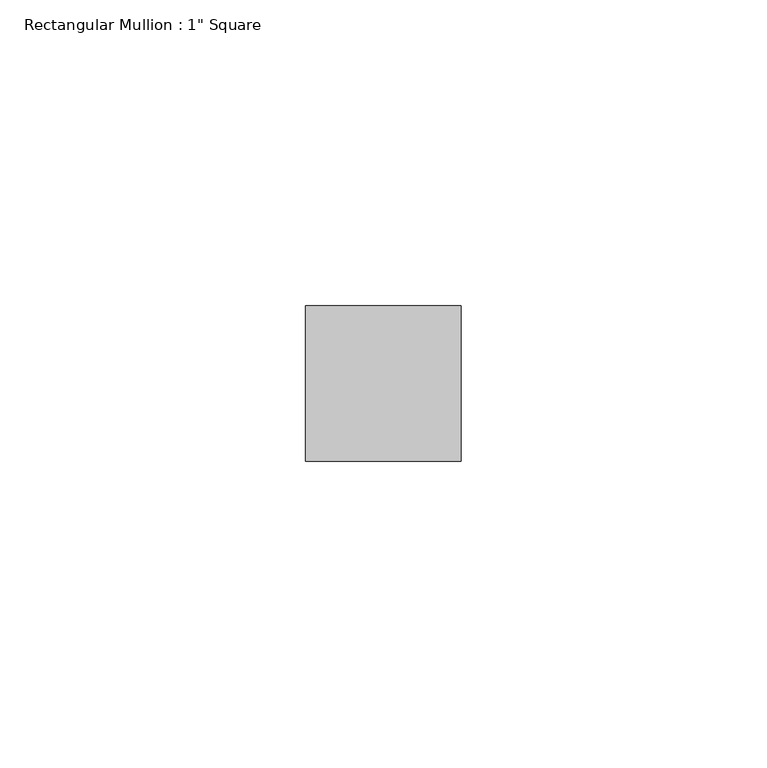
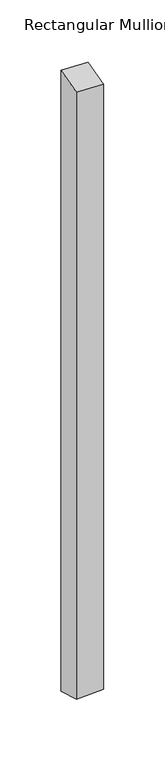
"""IFC4 building model written with IfcOpenShell, lengths in millimetres: member geometry."""

from ifc_helpers import new_model, si_unit, origin, place, context, project, spatial, faceted_brep, source, transform, mapped, element, save


def member_30d53926(model_context):
    return source(origin(), model_context, "Body", "Brep", [
        faceted_brep([(-25.4, 12.7, 4.1138224), (0.0, 12.7, 3.3174789), (0.0, 12.7, -613.2820147), (-25.4, 12.7, -614.1658632), (-25.4, -12.7, -2.5211354), (-25.4, -12.7, -606.8018337), (0.0, -12.7, -3.3174789), (0.0, -12.7, -605.9179853)], [[[0, 1, 2, 3]], [[4, 0, 3, 5]], [[6, 4, 5, 7]], [[1, 6, 7, 2]], [[1, 0, 4, 6]], [[2, 7, 5, 3]]]),
    ])


if __name__ == "__main__":
    model = new_model("IFC4")
    model_context = context("Model", 3, world=origin())
    ifc_project = project(units=[si_unit("LENGTHUNIT", "METRE", prefix="MILLI")], contexts=[model_context])
    site = spatial("IfcSite", under=ifc_project)
    building = spatial("IfcBuilding", under=site)
    placement = place(None, origin())
    member_shape = member_30d53926(model_context)
    element("IfcMember", 1, ObjectType="Rectangular Mullion : 1\" Square", at=placement, inside=building, context=model_context, shape_type="MappedRepresentation", body=[
        mapped(member_shape, transform((0.0, 0.0, 0.0), x_axis=(1.0, 0.0, 0.0), y_axis=(0.0, 1.0, 0.0), z_axis=(0.0, 0.0, 1.0))),
    ])
    save(model, "model.ifc")
